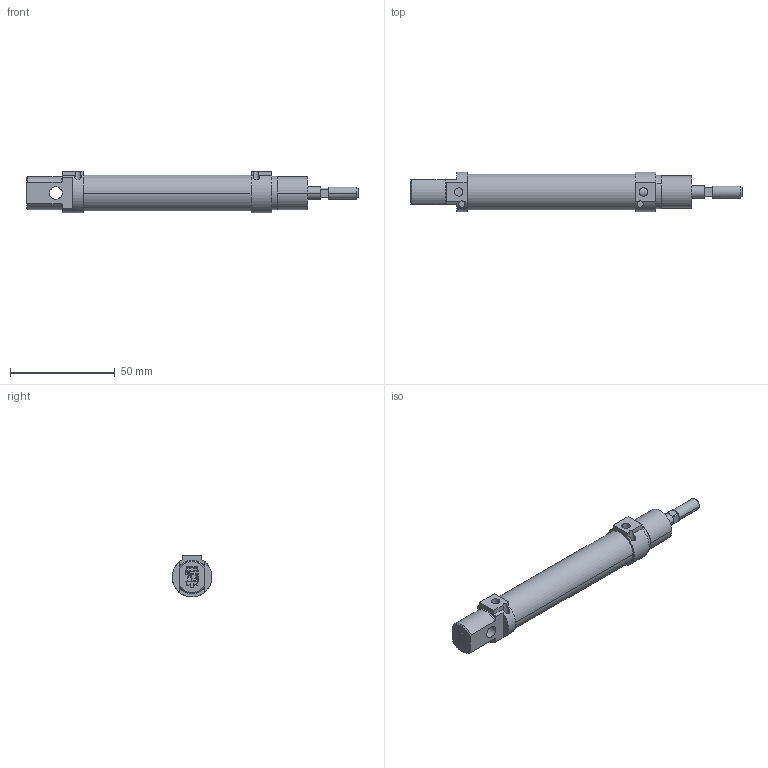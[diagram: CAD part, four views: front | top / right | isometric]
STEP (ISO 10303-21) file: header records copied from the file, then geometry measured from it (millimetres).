
FILE_DESCRIPTION(('CATIA V5 STEP Exchange'),'2;1');
FILE_NAME('D:\stp file for catalog\PSN\12\PSN-12-06-50.stp','2018-04-25T08:10:46+00:00',('none'),('none'),'CATIA Version 5-6 Release 2016','CATIA V5 STEP AP203','none');
FILE_SCHEMA(('CONFIG_CONTROL_DESIGN'));
Length unit declared in the file: millimetre
Products named in the file (1): PSN-12-06-50-00
Assembly tree (2 placements, depth 2):
  PSN-12-06-50-00
    #57
    #4943
Bounding box: 158.25 x 18.98 x 20 mm (x, y, z)
Volume: 25371.4 mm3; surface area: 15636 mm2
Topology: 2 solids, 3 shells, 198 faces, 502 edges, 332 vertices
Faces by surface type: plane 136, cylinder 58, cone 4
Entity records: 5633 total; most frequent: CARTESIAN_POINT 1079, ORIENTED_EDGE 1004, DIRECTION 745, EDGE_CURVE 502, VECTOR 354, LINE 354, VERTEX_POINT 332, AXIS2_PLACEMENT_3D 263
